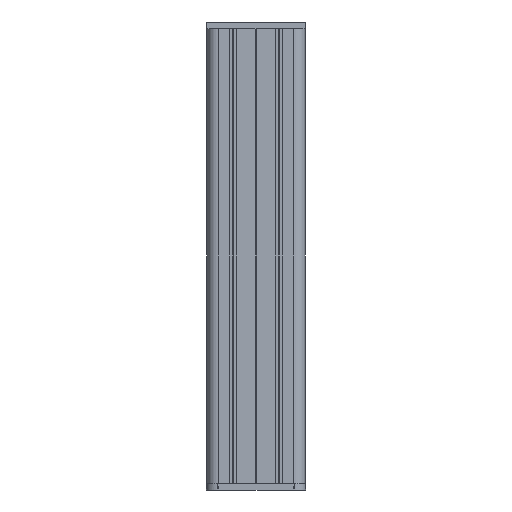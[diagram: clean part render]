
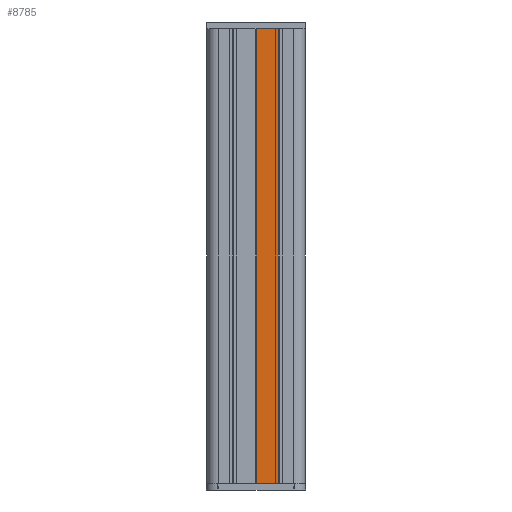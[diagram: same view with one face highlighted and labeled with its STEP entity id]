
A CAD part, left-side view. The second image highlights one B-rep face of the part: STEP entity #8785.
In plain terms, the highlighted planar face has unit normal (-1, 0, 0) as drawn and (0, -1, 0) by its records, which use the part's own axes.
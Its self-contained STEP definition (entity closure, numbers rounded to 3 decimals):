
#842 = DIRECTION ( 'NONE',  ( 0., 0., 1. ) ) ;
#931 = CARTESIAN_POINT ( 'NONE',  ( 16.279, -5., -100. ) ) ;
#1219 = EDGE_CURVE ( 'NONE', #16215, #12403, #17166, .T. ) ;
#1461 = CARTESIAN_POINT ( 'NONE',  ( 16.279, -5., 100. ) ) ;
#3908 = PLANE ( 'NONE',  #20372 ) ;
#4603 = VERTEX_POINT ( 'NONE', #7672 ) ;
#4662 = CARTESIAN_POINT ( 'NONE',  ( 6.75, -5., 100. ) ) ;
#5659 = CARTESIAN_POINT ( 'NONE',  ( 8., -5., -100. ) ) ;
#5841 = VECTOR ( 'NONE', #24685, 1000. ) ;
#6478 = CARTESIAN_POINT ( 'NONE',  ( 8., -5., 100. ) ) ;
#7190 = EDGE_CURVE ( 'NONE', #4603, #16215, #23034, .T. ) ;
#7672 = CARTESIAN_POINT ( 'NONE',  ( 6.75, -5., -100. ) ) ;
#7963 = DIRECTION ( 'NONE',  ( 1., 0., 0. ) ) ;
#8785 = ADVANCED_FACE ( 'NONE', ( #19702 ), #3908, .T. ) ;
#10356 = EDGE_CURVE ( 'NONE', #14409, #12403, #11453, .T. ) ;
#10444 = DIRECTION ( 'NONE',  ( 1., 0., 0. ) ) ;
#11084 = VECTOR ( 'NONE', #842, 1000. ) ;
#11240 = VECTOR ( 'NONE', #7963, 1000. ) ;
#11453 = LINE ( 'NONE', #6478, #25439 ) ;
#11595 = LINE ( 'NONE', #13003, #5841 ) ;
#12294 = ORIENTED_EDGE ( 'NONE', *, *, #7190, .T. ) ;
#12403 = VERTEX_POINT ( 'NONE', #1461 ) ;
#13003 = CARTESIAN_POINT ( 'NONE',  ( 6.75, -5., -100. ) ) ;
#14409 = VERTEX_POINT ( 'NONE', #4662 ) ;
#16215 = VERTEX_POINT ( 'NONE', #29438 ) ;
#17166 = LINE ( 'NONE', #931, #11084 ) ;
#18067 = ORIENTED_EDGE ( 'NONE', *, *, #10356, .F. ) ;
#19702 = FACE_OUTER_BOUND ( 'NONE', #26594, .T. ) ;
#20372 = AXIS2_PLACEMENT_3D ( 'NONE', #22157, #26360, #10444 ) ;
#21525 = ORIENTED_EDGE ( 'NONE', *, *, #29599, .F. ) ;
#22157 = CARTESIAN_POINT ( 'NONE',  ( 8., -5., -100. ) ) ;
#23034 = LINE ( 'NONE', #5659, #11240 ) ;
#24685 = DIRECTION ( 'NONE',  ( 0., 0., 1. ) ) ;
#25439 = VECTOR ( 'NONE', #27124, 1000. ) ;
#26360 = DIRECTION ( 'NONE',  ( 0., -1., 0. ) ) ;
#26594 = EDGE_LOOP ( 'NONE', ( #12294, #29203, #18067, #21525 ) ) ;
#27124 = DIRECTION ( 'NONE',  ( 1., 0., 0. ) ) ;
#29203 = ORIENTED_EDGE ( 'NONE', *, *, #1219, .T. ) ;
#29438 = CARTESIAN_POINT ( 'NONE',  ( 16.279, -5., -100. ) ) ;
#29599 = EDGE_CURVE ( 'NONE', #4603, #14409, #11595, .T. ) ;
